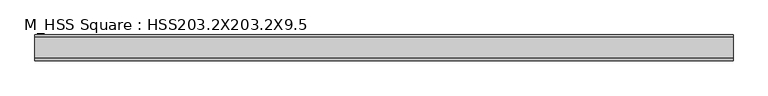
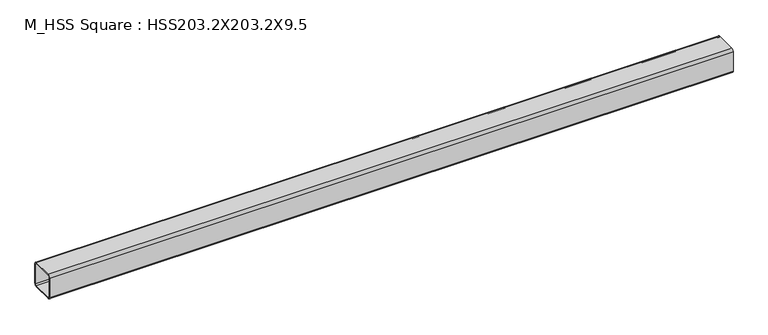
"""IFC4 building model written with IfcOpenShell, lengths in millimetres: member geometry, M_HSS Square : HSS203.2X203.2X9.5."""

from ifc_helpers import new_model, si_unit, point, frame, frame_2d, origin, place, context, project, spatial, polyline, circle_curve, trimmed, segment, composite_curve, outline, extrude, source, transform, mapped, element, save


def m_hss_square_hss203_2x203_2x9_5_33c3a177(model_context):
    return source(origin(), model_context, "Body", "SweptSolid", [
        extrude(outline(composite_curve([segment(trimmed(circle_curve(frame_2d((-82.44, 82.44)), 19.06), [point((-101.5, 82.44))], [point((-82.44, 101.5))], False, "CARTESIAN"), True, "CONTINUOUS"), segment(polyline([(-82.44, 101.5), (82.44, 101.5)]), True, "CONTINUOUS"), segment(trimmed(circle_curve(frame_2d((82.44, 82.44)), 19.06), [point((82.44, 101.5))], [point((101.5, 82.44))], False, "CARTESIAN"), True, "CONTINUOUS"), segment(polyline([(101.5, 82.44), (101.5, -82.44)]), True, "CONTINUOUS"), segment(trimmed(circle_curve(frame_2d((82.44, -82.44)), 19.06), [point((101.5, -82.44))], [point((82.44, -101.5))], False, "CARTESIAN"), True, "CONTINUOUS"), segment(polyline([(82.44, -101.5), (-82.44, -101.5)]), True, "CONTINUOUS"), segment(trimmed(circle_curve(frame_2d((-82.44, -82.44)), 19.06), [point((-82.44, -101.5))], [point((-101.5, -82.44))], False, "CARTESIAN"), True, "CONTINUOUS"), segment(polyline([(-101.5, -82.44), (-101.5, 82.44)]), True, "CONTINUOUS")], self_intersect=False), holes=[composite_curve([segment(polyline([(82.44, 91.97), (-82.44, 91.97)]), True, "CONTINUOUS"), segment(trimmed(circle_curve(frame_2d((-82.44, 82.44)), 9.53), [point((-82.44, 91.97))], [point((-91.97, 82.44))], True, "CARTESIAN"), True, "CONTINUOUS"), segment(polyline([(-91.97, 82.44), (-91.97, -82.44)]), True, "CONTINUOUS"), segment(trimmed(circle_curve(frame_2d((-82.44, -82.44)), 9.53), [point((-91.97, -82.44))], [point((-82.44, -91.97))], True, "CARTESIAN"), True, "CONTINUOUS"), segment(polyline([(-82.44, -91.97), (82.44, -91.97)]), True, "CONTINUOUS"), segment(trimmed(circle_curve(frame_2d((82.44, -82.44)), 9.53), [point((82.44, -91.97))], [point((91.97, -82.44))], True, "CARTESIAN"), True, "CONTINUOUS"), segment(polyline([(91.97, -82.44), (91.97, 82.44)]), True, "CONTINUOUS"), segment(trimmed(circle_curve(frame_2d((82.44, 82.44)), 9.53), [point((91.97, 82.44))], [point((82.44, 91.97))], True, "CARTESIAN"), True, "CONTINUOUS")], self_intersect=False)]), frame((-2733.95, 0.0, 0.0), z_axis=(1.0, 0.0, 0.0), x_axis=(0.0, 1.0, 0.0)), (0.0, 0.0, 1.0), 5467.9),
    ])


if __name__ == "__main__":
    model = new_model("IFC4")
    model_context = context("Model", 3, world=origin())
    ifc_project = project(units=[si_unit("LENGTHUNIT", "METRE", prefix="MILLI")], contexts=[model_context])
    site = spatial("IfcSite", under=ifc_project)
    building = spatial("IfcBuilding", under=site)
    placement = place(None, origin())
    m_hss_square_hss203_2x203_2x9_5_shape = m_hss_square_hss203_2x203_2x9_5_33c3a177(model_context)
    element("IfcMember", 1, ObjectType="M_HSS Square : HSS203.2X203.2X9.5", at=placement, inside=building, context=model_context, shape_type="MappedRepresentation", body=[
        mapped(m_hss_square_hss203_2x203_2x9_5_shape, transform((0.0, 0.0, 0.0), x_axis=(1.0, 0.0, 0.0), y_axis=(0.0, 1.0, 0.0), z_axis=(0.0, 0.0, 1.0))),
    ])
    save(model, "model.ifc")
